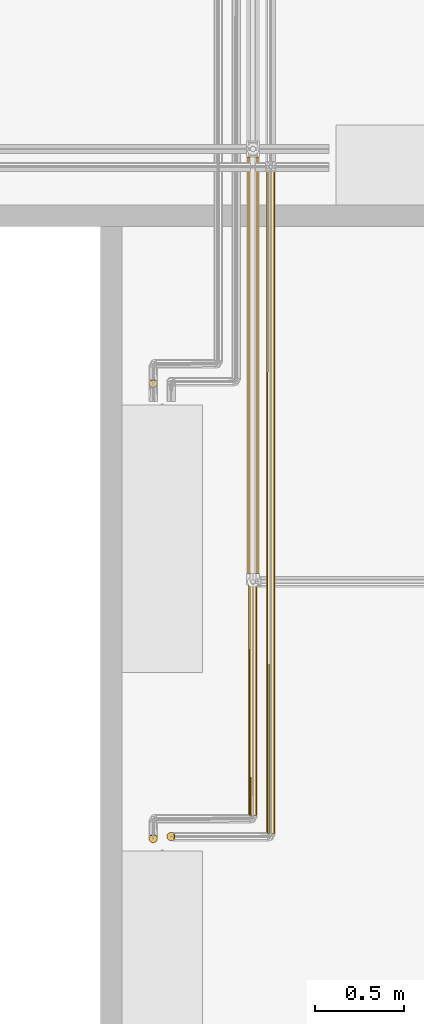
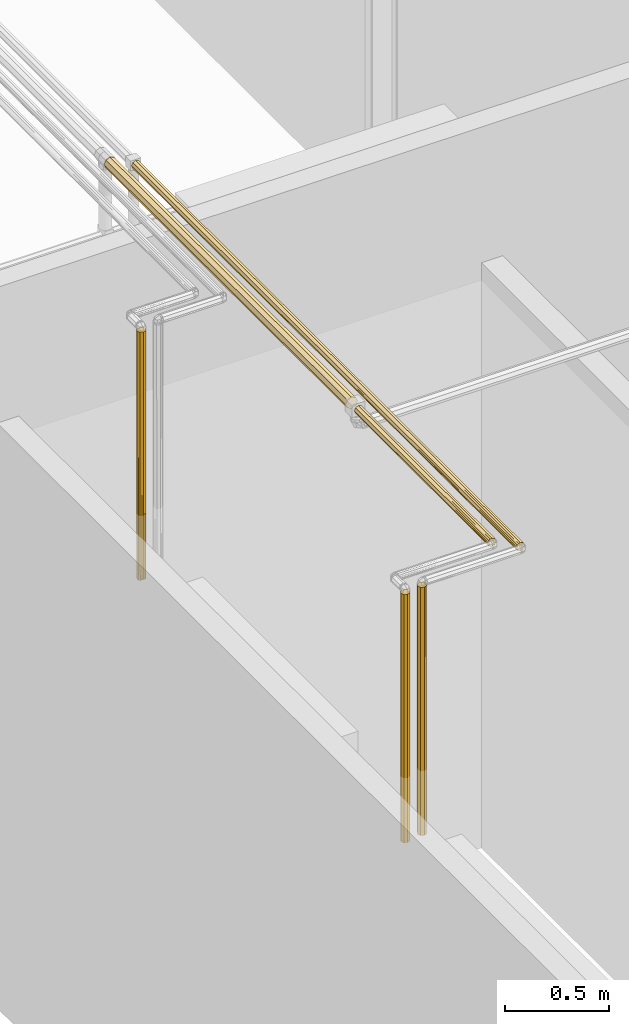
# One storey, part 79 of 652: 6 coverings.
"""IFC2X3 building model written with IfcOpenShell, lengths in millimetres."""

from ifc_helpers import new_model, entity, si_unit, converted_unit, direction, frame, origin, place, context, subcontext, project, spatial, faceted_brep, material, type_object, element, save


model = new_model("IFC2X3")

# Units and contexts
model_context = context("Model", 3, precision=0.01, world=frame((0.0, 0.0, 308426.39999999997)), true_north=direction((6.123233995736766e-17, 1.0)))
plan_context = context("Plan", 3, precision=0.01, world=frame((0.0, 0.0, 308426.39999999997)), true_north=direction((6.123233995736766e-17, 1.0)))
body_context = subcontext(model_context, "Body", "Model", "MODEL_VIEW")
ifc_project = project(units=[si_unit("LENGTHUNIT", "METRE", prefix="MILLI"), si_unit("AREAUNIT", "SQUARE_METRE"), si_unit("VOLUMEUNIT", "CUBIC_METRE"), converted_unit("PLANEANGLEUNIT", "DEGREE", entity("IfcPlaneAngleMeasure", 0.017453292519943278), si_unit("PLANEANGLEUNIT", "RADIAN"), dimensions=[0, 0, 0, 0, 0, 0, 0])], contexts=[model_context, plan_context])

# Site, building, storey
site_placement = place(None, origin())
site = spatial("IfcSite", under=ifc_project, at=site_placement, Name="Default", CompositionType="ELEMENT")
building_placement = place(site_placement, origin())
building = spatial("IfcBuilding", under=site, at=building_placement, CompositionType="ELEMENT")
storey_placement = place(building_placement, frame((0.0, 0.0, 1730.6999999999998)))
storey = spatial("IfcBuildingStorey", under=building, at=storey_placement, Name="EG_Produktion_FFB", CompositionType="ELEMENT", Elevation=1730.6999999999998)

# Coverings
ifc_material = material(Name="Dämmung - Armaflex-Schlauch")
covering_type = type_object("IfcCoveringType", Name="Rohrdämmung außen:Armaflex-Schlauch", PredefinedType="INSULATION")
covering_1_placement = place(storey_placement, frame((15258.835930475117, 36497.94481053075, 4174.642227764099)))
element("IfcCovering", 1, at=covering_1_placement, inside=storey, type_object=covering_type, material=ifc_material, Name="Rohrdämmung außen:Armaflex-Schlauch", ObjectType="Rohrdämmung außen:Armaflex-Schlauch", PredefinedType="INSULATION", context=body_context, shape_type="Brep", body=[
    faceted_brep([(8.555147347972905, 3717.405939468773, 8.55514734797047), (6.8151785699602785, 3717.405939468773, 12.755803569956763), (5.075209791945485, 3717.405939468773, 16.956459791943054), (3.3352410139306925, 3717.405939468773, 21.157116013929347), (1.5952722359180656, 3717.405939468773, 25.35777223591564), (3.3352410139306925, 3717.405939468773, 29.558428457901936), (5.075209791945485, 3717.405939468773, 33.759084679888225), (6.815178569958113, 3717.405939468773, 37.95974090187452), (8.555147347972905, 3717.405939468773, 42.16039712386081), (12.755803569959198, 3717.405939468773, 43.90036590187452), (16.95645979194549, 3717.405939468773, 45.640334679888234), (19.88453136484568, 3717.405939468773, 46.85318163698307), (25.357772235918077, 3717.405939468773, 49.12027223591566), (30.831013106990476, 3717.405939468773, 46.85318163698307), (33.75908467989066, 3717.405939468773, 45.640334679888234), (37.959740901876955, 3717.405939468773, 43.90036590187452), (42.16039712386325, 3717.405939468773, 42.16039712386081), (43.90036590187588, 3717.405939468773, 37.95974090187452), (45.64033467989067, 3717.405939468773, 33.759084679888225), (46.853181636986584, 3717.405939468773, 30.83101310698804), (49.12027223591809, 3717.405939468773, 25.35777223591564), (47.380303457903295, 3717.405939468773, 21.157116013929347), (45.64033467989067, 3717.405939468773, 16.956459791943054), (43.90036590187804, 3717.405939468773, 12.755803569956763), (42.16039712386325, 3717.405939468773, 8.55514734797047), (37.959740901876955, 3717.405939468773, 6.8151785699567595), (33.75908467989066, 3717.405939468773, 5.075209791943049), (29.55842845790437, 3717.405939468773, 3.335241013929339), (25.357772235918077, 3717.405939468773, 1.595272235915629), (21.157116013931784, 3717.405939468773, 3.335241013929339), (16.95645979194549, 3717.405939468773, 5.075209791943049), (12.755803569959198, 3717.405939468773, 6.815178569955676), (15.488689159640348, 1.5952722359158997, 46.97391447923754), (11.448105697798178, 1.5952722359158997, 43.951164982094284), (7.407522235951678, 1.5952722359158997, 40.928415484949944), (7.407522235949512, 1.5952722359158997, 9.787128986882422), (11.448105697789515, 1.5952722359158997, 6.764379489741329), (15.48868915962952, 1.5952722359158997, 3.7416299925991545), (20.42323069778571, 1.5952722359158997, 2.6684511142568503), (25.357772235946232, 1.5952722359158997, 1.5952722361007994), (30.831013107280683, 1.5952722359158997, 3.8623628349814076), (36.30425397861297, 1.5952722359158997, 6.129453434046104), (42.16039712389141, 1.5952722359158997, 8.55514734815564), (43.90036590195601, 1.5952722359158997, 12.755803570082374), (45.64033467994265, 1.5952722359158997, 16.95645979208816), (47.380303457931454, 1.5952722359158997, 21.157116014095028), (49.120272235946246, 1.5952722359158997, 25.35777223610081), (47.380303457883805, 1.5952722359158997, 29.558428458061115), (45.640334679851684, 1.5952722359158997, 33.75908468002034), (43.90036590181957, 1.5952722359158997, 37.95974090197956), (42.16039712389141, 1.5952722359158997, 42.160397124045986), (37.95974090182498, 1.5952722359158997, 43.90036590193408), (33.75908467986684, 1.5952722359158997, 45.640334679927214), (29.55842845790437, 1.5952722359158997, 47.380303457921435), (25.357772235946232, 1.5952722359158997, 49.120272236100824), (20.423230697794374, 1.5952722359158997, 48.04709335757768), (5.251613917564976, 3.751180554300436, 13.417429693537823), (3.0957055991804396, 5.907088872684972, 17.047730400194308), (2.3454889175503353, 6.657305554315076, 21.20275131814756), (1.5952722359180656, 7.40752223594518, 25.35777223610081), (2.345488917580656, 6.6573055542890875, 29.512793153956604), (3.0957055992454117, 5.907088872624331, 33.667814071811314), (5.251613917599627, 3.7511805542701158, 37.29811477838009)], [[[0, 1, 2, 3, 4, 5, 6, 7, 8, 9, 10, 11, 12, 13, 14, 15, 16, 17, 18, 19, 20, 21, 22, 23, 24, 25, 26, 27, 28, 29, 30, 31]], [[32, 33, 34, 35, 36, 37, 38, 39, 40, 41, 42, 43, 44, 45, 46, 47, 48, 49, 50, 51, 52, 53, 54, 55]], [[44, 43, 42, 24, 23, 22, 21, 20, 46, 45]], [[42, 41, 40, 39, 28, 27, 26, 25, 24]], [[39, 29, 28]], [[1, 35, 56]], [[0, 36, 35]], [[38, 30, 29]], [[31, 37, 36]], [[0, 35, 1]], [[56, 57, 2]], [[58, 59, 4]], [[38, 37, 30]], [[56, 2, 1]], [[36, 0, 31]], [[3, 57, 58]], [[31, 30, 37]], [[29, 39, 38]], [[2, 57, 3]], [[58, 4, 3]], [[59, 60, 4]], [[54, 12, 55]], [[5, 60, 61]], [[32, 9, 33]], [[62, 6, 61]], [[8, 34, 33]], [[10, 9, 32, 11]], [[11, 32, 55]], [[4, 60, 5]], [[33, 9, 8]], [[12, 11, 55]], [[6, 62, 7]], [[34, 7, 62]], [[5, 61, 6]], [[7, 34, 8]], [[20, 19, 18, 17, 16, 50, 49, 48, 47, 46]], [[52, 51, 50, 16, 15, 14, 13, 12, 54, 53]], [[58, 57, 56, 35, 34, 62, 61, 60, 59]]]),
])
covering_2_placement = place(storey_placement, frame((15149.310930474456, 37955.747750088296, 4165.117227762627)))
element("IfcCovering", 2, at=covering_2_placement, inside=storey, type_object=covering_type, material=ifc_material, Name="Rohrdämmung außen:Armaflex-Schlauch", ObjectType="Rohrdämmung außen:Armaflex-Schlauch", PredefinedType="INSULATION", context=body_context, shape_type="Brep", body=[
    faceted_brep([(17.229409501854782, 0.0, 8.907534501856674), (23.113863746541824, 0.0, 6.4701137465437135), (28.998317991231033, 0.0, 4.032692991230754), (34.882772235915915, 0.0, 1.595272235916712), (42.10785912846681, 0.0, 4.588001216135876), (46.65168072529, 0.0, 6.4701137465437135), (52.53613496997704, 0.0, 8.90753450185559), (58.42058921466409, 0.0, 11.344955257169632), (60.85800996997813, 0.0, 17.229409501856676), (63.295430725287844, 0.0, 23.113863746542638), (65.73285148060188, 0.0, 28.99831799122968), (68.17027223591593, 0.0, 34.882772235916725), (65.17754325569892, 0.0, 42.10785912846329), (63.295430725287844, 0.0, 46.65168072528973), (60.85800996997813, 0.0, 52.53613496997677), (58.42058921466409, 0.0, 58.42058921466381), (52.53613496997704, 0.0, 60.85800996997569), (46.65168072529, 0.0, 63.295430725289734), (40.76722648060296, 0.0, 65.73285148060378), (34.882772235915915, 0.0, 68.17027223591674), (27.657685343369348, 0.0, 65.17754325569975), (23.113863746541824, 0.0, 63.295430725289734), (17.229409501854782, 0.0, 60.85800996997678), (11.344955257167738, 0.0, 58.42058921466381), (8.907534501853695, 0.0, 52.53613496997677), (6.470113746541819, 0.0, 46.65168072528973), (4.0326929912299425, 0.0, 40.76722648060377), (1.5952722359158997, 0.0, 34.882772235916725), (4.0326929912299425, 0.0, 28.998317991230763), (6.470113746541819, 0.0, 23.11386374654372), (8.907534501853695, 0.0, 17.229409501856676), (11.344955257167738, 0.0, 11.344955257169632), (1.5952722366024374, 2333.5044999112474, 34.882772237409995), (4.032692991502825, 2333.5044999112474, 40.76722648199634), (6.470113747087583, 2333.504499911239, 46.65168072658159), (8.907534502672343, 2333.504499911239, 52.536134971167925), (11.344955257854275, 2333.50449991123, 58.42058921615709), (20.432598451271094, 2333.50449991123, 62.18481427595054), (27.657685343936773, 2333.504499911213, 65.17754325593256), (34.88277223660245, 2333.504499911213, 68.17027223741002), (40.767226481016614, 2333.504499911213, 65.73285148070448), (46.65168072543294, 2333.504499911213, 63.29543072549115), (52.53613496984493, 2333.504499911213, 60.85800997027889), (58.420589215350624, 2333.5044999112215, 58.42058921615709), (60.858009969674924, 2333.5044999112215, 52.53613497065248), (63.29543072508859, 2333.50449991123, 46.65168072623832), (65.73285148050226, 2333.50449991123, 40.76722648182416), (68.17027223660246, 2333.50449991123, 34.882772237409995), (65.1775432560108, 2333.504499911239, 27.657685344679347), (62.18481427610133, 2333.504499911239, 20.4325984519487), (58.420589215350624, 2333.5044999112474, 11.344955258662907), (52.53613497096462, 2333.5044999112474, 8.907534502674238), (46.65168072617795, 2333.504499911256, 6.470113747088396), (40.767226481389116, 2333.5044999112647, 4.032692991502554), (34.88277223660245, 2333.5044999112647, 1.5952722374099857), (27.65768534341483, 2333.5044999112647, 4.588001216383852), (20.432598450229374, 2333.504499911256, 7.580730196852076), (11.344955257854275, 2333.504499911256, 11.344955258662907), (8.907534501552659, 2333.5044999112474, 17.229409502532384), (6.470113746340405, 2333.5044999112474, 23.11386374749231), (4.032692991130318, 2333.5044999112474, 28.998317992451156)], [[[0, 1, 2, 3, 4, 5, 6, 7, 8, 9, 10, 11, 12, 13, 14, 15, 16, 17, 18, 19, 20, 21, 22, 23, 24, 25, 26, 27, 28, 29, 30, 31]], [[32, 33, 34, 35, 36, 37, 38, 39, 40, 41, 42, 43, 44, 45, 46, 47, 48, 49, 50, 51, 52, 53, 54, 55, 56, 57, 58, 59, 60]], [[59, 58, 57, 31, 30, 29, 28, 27, 32, 60]], [[57, 56, 55, 54, 3, 2, 1, 0, 31]], [[47, 11, 10, 9, 8, 7, 50, 49, 48]], [[6, 52, 51]], [[53, 52, 4]], [[7, 51, 50]], [[4, 52, 6, 5]], [[3, 53, 4]], [[7, 6, 51]], [[53, 3, 54]], [[42, 41, 40, 39, 19, 18, 17, 16, 15, 43]], [[14, 13, 12, 11, 47, 46, 45, 44, 43, 15]], [[38, 19, 39]], [[23, 36, 35, 34, 33, 32, 27, 26, 25, 24]], [[19, 38, 21, 20]], [[22, 36, 23]], [[22, 21, 37]], [[36, 22, 37]], [[37, 21, 38]]]),
])
covering_3_placement = place(storey_placement, frame((15158.835930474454, 36597.94481053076, 4174.6422277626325)))
element("IfcCovering", 3, at=covering_3_placement, inside=storey, type_object=covering_type, material=ifc_material, Name="Rohrdämmung außen:Armaflex-Schlauch", ObjectType="Rohrdämmung außen:Armaflex-Schlauch", PredefinedType="INSULATION", context=body_context, shape_type="Brep", body=[
    faceted_brep([(20.423230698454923, 1.5952722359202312, 2.6684511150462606), (25.35777223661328, 1.5952722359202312, 1.5952722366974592), (29.296678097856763, 1.5952722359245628, 3.226820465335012), (33.759084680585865, 1.5952722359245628, 5.07520979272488), (37.95974090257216, 1.5952722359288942, 6.815178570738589), (42.16039712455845, 1.5952722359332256, 8.5551473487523), (43.900365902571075, 1.5952722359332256, 12.755803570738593), (45.64033468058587, 1.5952722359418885, 16.956459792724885), (47.48872400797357, 1.5952722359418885, 21.41886637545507), (49.12027223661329, 1.5952722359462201, 25.35777223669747), (47.380303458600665, 1.5952722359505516, 29.558428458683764), (45.64033468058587, 1.5952722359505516, 33.75908468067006), (43.900365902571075, 1.5952722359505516, 37.95974090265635), (42.16039712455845, 1.5952722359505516, 42.16039712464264), (37.95974090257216, 1.5952722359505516, 43.900365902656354), (33.759084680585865, 1.5952722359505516, 45.640334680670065), (29.558428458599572, 1.5952722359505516, 47.38030345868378), (25.35777223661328, 1.5952722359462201, 49.12027223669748), (20.42323069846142, 1.5952722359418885, 48.04709335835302), (15.48868916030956, 1.5952722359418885, 46.97391448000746), (11.448105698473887, 1.595272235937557, 43.951164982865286), (7.407522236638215, 1.5952722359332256, 40.92841548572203), (7.407522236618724, 1.5952722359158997, 9.787128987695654), (11.448105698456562, 1.5952722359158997, 6.764379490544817), (15.488689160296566, 1.5952722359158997, 3.741629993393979), (42.16039712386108, 1292.4059395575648, 8.55514734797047), (37.95974090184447, 1292.4059395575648, 6.815178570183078), (33.759084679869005, 1292.4059395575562, 5.0752097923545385), (29.558428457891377, 1292.4059395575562, 3.335241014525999), (25.357772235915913, 1292.4059395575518, 1.595272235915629), (21.41886637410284, 1292.4059395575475, 3.2268204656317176), (16.956459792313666, 1292.4059395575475, 5.075209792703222), (12.75580357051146, 1292.4059395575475, 6.815178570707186), (8.55514734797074, 1292.4059395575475, 8.55514734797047), (6.8151785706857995, 1292.4059395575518, 12.75580357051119), (5.075209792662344, 1292.4059395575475, 16.956459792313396), (3.335241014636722, 1292.4059395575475, 21.157116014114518), (1.5952722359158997, 1292.4059395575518, 25.35777223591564), (3.335241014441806, 1292.4059395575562, 29.558428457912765), (5.075209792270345, 1292.4059395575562, 33.75908467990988), (6.815178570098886, 1292.4059395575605, 37.959740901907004), (8.55514734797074, 1292.4059395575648, 42.16039712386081), (12.755803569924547, 1292.4059395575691, 43.900365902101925), (16.95645979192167, 1292.4059395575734, 45.64033468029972), (21.15711601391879, 1292.4059395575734, 47.3803034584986), (25.357772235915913, 1292.4059395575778, 49.12027223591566), (29.296678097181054, 1292.4059395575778, 47.48872400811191), (33.23558395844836, 1292.405939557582, 45.85717577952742), (37.697990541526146, 1292.405939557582, 44.008786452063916), (42.16039712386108, 1292.405939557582, 42.16039712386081), (43.90036590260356, 1292.405939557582, 37.95974090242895), (45.64033468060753, 1292.405939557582, 33.75908468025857), (47.38030345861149, 1292.405939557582, 29.558428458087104), (49.12027223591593, 1292.4059395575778, 25.35777223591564), (47.38030345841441, 1292.4059395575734, 21.157116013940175), (45.6403346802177, 1292.4059395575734, 16.95645979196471), (43.90036590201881, 1292.4059395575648, 12.755803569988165), (2.3454889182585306, 6.6573055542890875, 21.20275131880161), (1.5952722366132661, 7.407522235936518, 25.357772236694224), (3.095705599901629, 5.907088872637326, 17.047730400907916), (5.251613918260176, 3.751180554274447, 13.417429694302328), (2.3454889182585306, 6.6573055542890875, 29.51279315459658), (5.251613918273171, 3.751180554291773, 37.29811477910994), (3.0957055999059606, 5.90708887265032, 33.667814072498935)], [[[0, 1, 2, 3, 4, 5, 6, 7, 8, 9, 10, 11, 12, 13, 14, 15, 16, 17, 18, 19, 20, 21, 22, 23, 24]], [[25, 26, 27, 28, 29, 30, 31, 32, 33, 34, 35, 36, 37, 38, 39, 40, 41, 42, 43, 44, 45, 46, 47, 48, 49, 50, 51, 52, 53, 54, 55, 56]], [[33, 23, 22]], [[37, 57, 58]], [[57, 37, 36]], [[59, 35, 60]], [[0, 31, 30]], [[23, 33, 32]], [[31, 0, 24]], [[22, 60, 34]], [[36, 59, 57]], [[30, 1, 0]], [[35, 59, 36]], [[32, 24, 23]], [[22, 34, 33]], [[32, 31, 24]], [[30, 29, 1]], [[60, 35, 34]], [[2, 1, 29]], [[27, 4, 3]], [[5, 4, 26]], [[28, 3, 2]], [[5, 25, 56, 55, 54, 53, 9, 8, 7, 6]], [[4, 27, 26]], [[28, 27, 3]], [[5, 26, 25]], [[2, 29, 28]], [[50, 49, 13, 12, 11, 10, 9, 53, 52, 51]], [[47, 46, 45, 17, 16, 15, 14, 13, 49, 48]], [[20, 42, 41]], [[45, 44, 17]], [[43, 19, 18]], [[43, 42, 19]], [[37, 61, 38]], [[21, 40, 62]], [[63, 39, 38]], [[18, 44, 43]], [[39, 63, 62]], [[19, 42, 20]], [[61, 63, 38]], [[17, 44, 18]], [[41, 21, 20]], [[58, 61, 37]], [[40, 21, 41]], [[40, 39, 62]], [[59, 60, 22, 21, 62, 63, 61, 58, 57]]]),
])
covering_4_placement = place(storey_placement, frame((14599.642227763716, 38994.642227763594, 4183.645022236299)))
element("IfcCovering", 4, at=covering_4_placement, inside=storey, type_object=covering_type, material=ifc_material, Name="Rohrdämmung außen:Armaflex-Schlauch", ObjectType="Rohrdämmung außen:Armaflex-Schlauch", PredefinedType="INSULATION", context=body_context, shape_type="Brep", body=[
    faceted_brep([(25.357772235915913, 49.12027223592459, -1465.6947722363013), (29.558428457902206, 47.380303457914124, -1465.6947722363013), (33.759084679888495, 45.640334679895, -1465.6947722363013), (37.959740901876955, 43.90036590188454, -1465.6947722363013), (42.16039712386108, 42.16039712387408, -1465.6947722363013), (43.90036590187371, 37.95974090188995, -1465.6947722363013), (45.640334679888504, 33.759084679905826, -1465.6947722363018), (47.68183184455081, 28.830474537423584, -1465.6947722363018), (49.12027223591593, 25.357772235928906, -1465.6947722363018), (48.04709335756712, 20.42323069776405, -1465.6947722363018), (46.97391447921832, 15.488689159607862, -1465.6947722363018), (43.951164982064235, 11.448105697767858, -1465.6947722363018), (40.92841548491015, 7.407522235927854, -1465.6947722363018), (9.787128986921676, 7.407522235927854, -1465.6947722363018), (6.764379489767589, 11.448105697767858, -1465.6947722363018), (3.7416299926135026, 15.488689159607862, -1465.6947722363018), (2.6684511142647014, 20.42323069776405, -1465.6947722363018), (1.5952722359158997, 25.357772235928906, -1465.6947722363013), (3.335241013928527, 29.558428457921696, -1465.6947722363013), (5.07520979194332, 33.759084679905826, -1465.6947722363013), (6.815178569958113, 37.95974090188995, -1465.6947722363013), (8.55514734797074, 42.16039712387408, -1465.6947722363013), (12.755803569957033, 43.90036590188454, -1465.6947722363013), (16.956459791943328, 45.640334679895, -1465.6947722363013), (21.15711601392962, 47.380303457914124, -1465.6947722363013), (9.787128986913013, 43.30802223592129, -1.5952722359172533), (6.764379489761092, 39.26743877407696, -1.5952722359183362), (3.7416299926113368, 35.22685531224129, -1.5952722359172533), (2.6684511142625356, 30.292313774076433, -1.5952722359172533), (1.5952722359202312, 25.357772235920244, -1.5952722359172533), (3.033712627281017, 21.885069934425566, -1.5952722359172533), (5.0752097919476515, 16.95645979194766, -1.5952722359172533), (6.8151785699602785, 12.755803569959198, -1.5952722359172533), (8.55514734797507, 8.55514734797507, -1.5952722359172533), (12.75580356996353, 6.81517856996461, -1.5952722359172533), (16.956459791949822, 5.075209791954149, -1.5952722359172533), (21.15711601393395, 3.335241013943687, -1.5952722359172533), (25.357772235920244, 1.5952722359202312, -1.5952722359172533), (29.55842845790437, 3.335241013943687, -1.5952722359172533), (33.75908467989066, 5.075209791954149, -1.5952722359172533), (37.95974090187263, 6.81517856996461, -1.5952722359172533), (42.160397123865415, 8.55514734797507, -1.5952722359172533), (43.90036590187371, 12.75580356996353, -1.5952722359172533), (45.640334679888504, 16.95645979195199, -1.5952722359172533), (47.38030345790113, 21.157116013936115, -1.5952722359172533), (49.120272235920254, 25.357772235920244, -1.5952722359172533), (48.04709335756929, 30.2923137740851, -1.5952722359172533), (46.97391447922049, 35.22685531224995, -1.5952722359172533), (43.95116498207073, 39.267438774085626, -1.5952722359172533), (40.928415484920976, 43.30802223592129, -1.5952722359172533), (17.04773040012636, 47.61983887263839, -5.907088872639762), (13.417429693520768, 45.46393055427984, -3.751180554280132), (21.202751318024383, 48.37005555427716, -6.657305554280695), (25.357772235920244, 49.12027223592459, -7.407522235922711), (29.512793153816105, 48.37005555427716, -6.6573055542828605), (33.6678140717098, 47.61983887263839, -5.907088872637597), (37.29811477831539, 45.46393055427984, -3.7511805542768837), (29.512793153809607, 2.3454889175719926, -1460.632738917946), (37.298114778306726, 5.2516139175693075, -1463.5388639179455), (33.66781407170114, 3.0957055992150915, -1461.382955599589), (25.357772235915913, 1.5952722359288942, -1459.8825222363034), (21.202751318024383, 2.3454889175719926, -1460.632738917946), (17.047730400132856, 3.0957055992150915, -1461.382955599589), (13.417429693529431, 5.251613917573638, -1463.5388639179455)], [[[0, 1, 2, 3, 4, 5, 6, 7, 8, 9, 10, 11, 12, 13, 14, 15, 16, 17, 18, 19, 20, 21, 22, 23, 24]], [[25, 26, 27, 28, 29, 30, 31, 32, 33, 34, 35, 36, 37, 38, 39, 40, 41, 42, 43, 44, 45, 46, 47, 48, 49]], [[29, 18, 17]], [[23, 50, 24]], [[18, 29, 28]], [[28, 19, 18]], [[25, 21, 26]], [[22, 25, 51]], [[51, 50, 23]], [[52, 53, 0]], [[27, 26, 20]], [[26, 21, 20]], [[27, 20, 19]], [[24, 50, 52]], [[21, 25, 22]], [[28, 27, 19]], [[51, 23, 22]], [[52, 0, 24]], [[53, 54, 0]], [[46, 45, 7]], [[1, 54, 55]], [[47, 5, 48]], [[56, 2, 55]], [[4, 49, 48]], [[47, 46, 6]], [[6, 46, 7]], [[0, 54, 1]], [[48, 5, 4]], [[45, 8, 7]], [[47, 6, 5]], [[2, 56, 3]], [[49, 3, 56]], [[1, 55, 2]], [[3, 49, 4]], [[11, 42, 41]], [[45, 44, 8]], [[43, 10, 9]], [[43, 42, 10]], [[37, 57, 38]], [[12, 40, 58]], [[59, 39, 38]], [[9, 44, 43]], [[39, 59, 58]], [[10, 42, 11]], [[57, 59, 38]], [[8, 44, 9]], [[41, 12, 11]], [[60, 57, 37]], [[40, 12, 41]], [[40, 39, 58]], [[37, 61, 60]], [[16, 31, 30]], [[61, 37, 36]], [[62, 35, 63]], [[14, 33, 32]], [[33, 14, 13]], [[31, 16, 15]], [[13, 34, 33]], [[35, 62, 36]], [[30, 17, 16]], [[13, 63, 34]], [[32, 15, 14]], [[32, 31, 15]], [[36, 62, 61]], [[30, 29, 17]], [[63, 35, 34]], [[12, 58, 59, 57, 60, 61, 62, 63, 13]], [[49, 56, 55, 54, 53, 52, 50, 51, 25]]]),
])
covering_5_placement = place(storey_placement, frame((14599.642227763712, 36444.642227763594, 4183.645022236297)))
element("IfcCovering", 5, at=covering_5_placement, inside=storey, type_object=covering_type, material=ifc_material, Name="Rohrdämmung außen:Armaflex-Schlauch", ObjectType="Rohrdämmung außen:Armaflex-Schlauch", PredefinedType="INSULATION", context=body_context, shape_type="Brep", body=[
    faceted_brep([(8.55514734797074, 42.16039712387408, -1465.694772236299), (12.755803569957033, 43.90036590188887, -1465.694772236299), (16.956459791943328, 45.64033467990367, -1465.694772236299), (21.15711601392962, 47.380303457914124, -1465.694772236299), (25.357772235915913, 49.120272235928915, -1465.694772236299), (29.558428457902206, 47.380303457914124, -1465.694772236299), (33.759084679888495, 45.64033467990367, -1465.694772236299), (37.95974090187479, 43.90036590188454, -1465.694772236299), (42.16039712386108, 42.16039712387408, -1465.694772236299), (43.90036590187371, 37.95974090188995, -1465.6947722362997), (45.640334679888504, 33.75908467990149, -1465.6947722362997), (47.681831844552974, 28.830474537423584, -1465.6947722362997), (49.12027223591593, 25.357772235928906, -1465.6947722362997), (47.681831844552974, 21.885069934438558, -1465.6947722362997), (45.640334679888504, 16.95645979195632, -1465.6947722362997), (43.90036590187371, 12.755803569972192, -1465.6947722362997), (42.16039712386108, 8.555147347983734, -1465.6947722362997), (37.95974090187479, 6.815178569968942, -1465.6947722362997), (33.75908467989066, 5.075209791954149, -1465.6947722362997), (29.558428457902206, 3.335241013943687, -1465.6947722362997), (25.357772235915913, 1.5952722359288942, -1465.6947722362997), (21.8850699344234, 3.033712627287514, -1465.6947722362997), (16.956459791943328, 5.075209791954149, -1465.6947722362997), (12.755803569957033, 6.8151785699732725, -1465.6947722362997), (8.55514734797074, 8.555147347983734, -1465.6947722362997), (6.815178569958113, 12.755803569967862, -1465.6947722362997), (5.07520979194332, 16.95645979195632, -1465.6947722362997), (3.335241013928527, 21.15711601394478, -1465.6947722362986), (1.5952722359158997, 25.357772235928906, -1465.694772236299), (3.3352410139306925, 29.558428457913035, -1465.694772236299), (5.07520979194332, 33.75908467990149, -1465.694772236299), (6.815178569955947, 37.95974090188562, -1465.694772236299), (9.787128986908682, 43.30802223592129, -1.5952722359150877), (6.764379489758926, 39.26743877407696, -1.5952722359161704), (3.7416299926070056, 35.22685531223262, -1.5952722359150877), (2.6684511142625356, 30.292313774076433, -1.5952722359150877), (1.5952722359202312, 25.357772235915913, -1.5952722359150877), (4.472153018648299, 18.412367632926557, -1.5952722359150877), (6.513650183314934, 13.483757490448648, -1.5952722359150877), (8.55514734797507, 8.55514734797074, -1.5952722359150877), (12.755803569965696, 6.8151785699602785, -1.5952722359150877), (16.956459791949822, 5.075209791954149, -1.5952722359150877), (21.157116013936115, 3.335241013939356, -1.5952722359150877), (25.357772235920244, 1.5952722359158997, -1.5952722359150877), (32.30317683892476, 4.472153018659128, -1.5952722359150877), (37.231786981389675, 6.513650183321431, -1.5952722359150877), (42.160397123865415, 8.55514734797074, -1.5952722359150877), (43.900365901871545, 12.75580356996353, -1.5952722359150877), (45.64033467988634, 16.95645979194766, -1.5952722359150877), (47.38030345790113, 21.157116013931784, -1.5952722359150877), (49.120272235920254, 25.357772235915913, -1.5952722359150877), (48.04709335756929, 30.292313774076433, -1.5952722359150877), (46.97391447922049, 35.22685531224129, -1.5952722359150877), (43.95116498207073, 39.26743877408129, -1.5952722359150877), (40.928415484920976, 43.30802223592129, -1.5952722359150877), (17.04773040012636, 47.619838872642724, -5.907088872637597), (13.417429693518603, 45.46393055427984, -3.7511805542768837), (21.202751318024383, 48.37005555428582, -6.657305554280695), (25.357772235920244, 49.120272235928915, -7.407522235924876), (29.512793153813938, 48.37005555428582, -6.657305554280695), (33.66781407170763, 47.61983887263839, -5.9070888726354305), (37.29811477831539, 45.46393055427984, -3.751180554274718)], [[[0, 1, 2, 3, 4, 5, 6, 7, 8, 9, 10, 11, 12, 13, 14, 15, 16, 17, 18, 19, 20, 21, 22, 23, 24, 25, 26, 27, 28, 29, 30, 31]], [[32, 33, 34, 35, 36, 37, 38, 39, 40, 41, 42, 43, 44, 45, 46, 47, 48, 49, 50, 51, 52, 53, 54]], [[36, 29, 28]], [[2, 55, 3]], [[29, 36, 35]], [[35, 30, 29]], [[32, 0, 33]], [[1, 32, 56]], [[56, 55, 2]], [[57, 58, 4]], [[34, 33, 31]], [[33, 0, 31]], [[34, 31, 30]], [[3, 55, 57]], [[0, 32, 1]], [[35, 34, 30]], [[56, 2, 1]], [[57, 4, 3]], [[58, 59, 4]], [[51, 50, 11]], [[5, 59, 60]], [[52, 9, 53]], [[61, 6, 60]], [[8, 54, 53]], [[52, 51, 10]], [[10, 51, 11]], [[4, 59, 5]], [[53, 9, 8]], [[50, 12, 11]], [[52, 10, 9]], [[6, 61, 7]], [[54, 7, 61]], [[5, 60, 6]], [[7, 54, 8]], [[48, 47, 46, 16, 15, 14, 13, 12, 50, 49]], [[16, 46, 45, 44, 43, 20, 19, 18, 17]], [[41, 40, 39, 24, 23, 22, 21, 20, 43, 42]], [[24, 39, 38, 37, 36, 28, 27, 26, 25]], [[60, 59, 58, 57, 55, 56, 32, 54, 61]]]),
])
covering_6_placement = place(storey_placement, frame((14699.642227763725, 36456.23206053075, 4183.645022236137)))
element("IfcCovering", 6, at=covering_6_placement, inside=storey, type_object=covering_type, material=ifc_material, Name="Rohrdämmung außen:Armaflex-Schlauch", ObjectType="Rohrdämmung außen:Armaflex-Schlauch", PredefinedType="INSULATION", context=body_context, shape_type="Brep", body=[
    faceted_brep([(42.16039712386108, 8.555147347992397, -1465.69477223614), (37.959740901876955, 6.815178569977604, -1465.6947722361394), (33.759084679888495, 5.075209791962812, -1465.69477223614), (28.83047453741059, 3.0337126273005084, -1465.6947722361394), (25.357772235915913, 1.595272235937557, -1465.69477223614), (21.885069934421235, 3.0337126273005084, -1465.69477223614), (16.956459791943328, 5.075209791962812, -1465.69477223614), (12.755803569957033, 6.815178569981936, -1465.69477223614), (8.55514734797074, 8.555147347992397, -1465.69477223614), (6.815178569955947, 12.755803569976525, -1465.69477223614), (5.07520979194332, 16.956459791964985, -1465.6947722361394), (3.3352410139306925, 21.15711601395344, -1465.69477223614), (1.5952722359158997, 25.35777223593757, -1465.6947722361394), (3.033712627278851, 28.83047453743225, -1465.6947722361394), (5.07520979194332, 33.75908467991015, -1465.6947722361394), (6.815178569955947, 37.959740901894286, -1465.6947722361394), (8.55514734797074, 42.16039712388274, -1465.6947722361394), (12.755803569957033, 43.90036590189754, -1465.6947722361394), (16.956459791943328, 45.640334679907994, -1465.6947722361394), (21.157116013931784, 47.380303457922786, -1465.6947722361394), (25.357772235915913, 49.120272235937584, -1465.6947722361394), (29.558428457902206, 47.380303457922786, -1465.6947722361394), (33.759084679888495, 45.64033467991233, -1465.6947722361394), (37.95974090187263, 43.9003659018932, -1465.69477223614), (42.16039712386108, 42.16039712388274, -1465.6947722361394), (43.90036590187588, 37.959740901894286, -1465.6947722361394), (45.640334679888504, 33.75908467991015, -1465.6947722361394), (47.38030345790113, 29.558428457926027, -1465.6947722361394), (49.12027223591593, 25.35777223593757, -1465.6947722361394), (47.38030345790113, 21.15711601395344, -1465.6947722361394), (45.640334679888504, 16.956459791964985, -1465.6947722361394), (43.90036590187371, 12.755803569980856, -1465.6947722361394), (35.226855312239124, 3.74162999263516, -1.5952722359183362), (39.267438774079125, 6.764379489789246, -1.5952722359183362), (43.30802223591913, 9.787128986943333, -1.5952722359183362), (43.30802223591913, 40.92841548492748, -1.5952722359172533), (39.26743877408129, 43.95116498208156, -1.5952722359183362), (35.22685531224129, 46.973914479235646, -1.5952722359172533), (30.292313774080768, 48.04709335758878, -1.5952722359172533), (25.357772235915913, 49.12027223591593, -1.5952722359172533), (18.412367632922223, 46.243391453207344, -1.5952722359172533), (13.48375749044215, 44.20189428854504, -1.5952722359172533), (8.55514734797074, 42.16039712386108, -1.5952722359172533), (6.815178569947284, 37.95974090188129, -1.5952722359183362), (5.075209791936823, 33.759084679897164, -1.5952722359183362), (3.3352410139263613, 29.55842845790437, -1.5952722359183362), (1.5952722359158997, 25.357772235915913, -1.5952722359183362), (4.472153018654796, 18.41236763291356, -1.5952722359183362), (6.513650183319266, 13.483757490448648, -1.5952722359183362), (8.55514734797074, 8.55514734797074, -1.5952722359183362), (12.75580356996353, 6.815178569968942, -1.5952722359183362), (16.95645979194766, 5.07520979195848, -1.5952722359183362), (21.157116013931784, 3.33524101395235, -1.5952722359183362), (25.357772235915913, 1.5952722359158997, -1.5952722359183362), (30.292313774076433, 2.6684511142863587, -1.5952722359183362), (47.61983887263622, 33.66781407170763, -5.907088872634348), (45.46393055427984, 37.298114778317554, -3.7511805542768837), (48.37005555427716, 29.512793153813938, -6.657305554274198), (49.12027223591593, 25.357772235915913, -7.407522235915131), (48.37005555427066, 21.20275131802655, -6.6573055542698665), (47.619838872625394, 17.047730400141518, -5.9070888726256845), (45.46393055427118, 13.417429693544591, -3.751180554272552)], [[[0, 1, 2, 3, 4, 5, 6, 7, 8, 9, 10, 11, 12, 13, 14, 15, 16, 17, 18, 19, 20, 21, 22, 23, 24, 25, 26, 27, 28, 29, 30, 31]], [[32, 33, 34, 35, 36, 37, 38, 39, 40, 41, 42, 43, 44, 45, 46, 47, 48, 49, 50, 51, 52, 53, 54]], [[39, 21, 20]], [[26, 55, 27]], [[21, 39, 38]], [[38, 22, 21]], [[35, 24, 36]], [[25, 35, 56]], [[56, 55, 26]], [[57, 58, 28]], [[37, 36, 23]], [[36, 24, 23]], [[37, 23, 22]], [[27, 55, 57]], [[24, 35, 25]], [[38, 37, 22]], [[56, 26, 25]], [[57, 28, 27]], [[58, 59, 28]], [[54, 53, 3]], [[29, 59, 60]], [[32, 1, 33]], [[61, 30, 60]], [[0, 34, 33]], [[32, 54, 2]], [[2, 54, 3]], [[28, 59, 29]], [[33, 1, 0]], [[53, 4, 3]], [[32, 2, 1]], [[30, 61, 31]], [[34, 31, 61]], [[29, 60, 30]], [[31, 34, 0]], [[51, 50, 49, 8, 7, 6, 5, 4, 53, 52]], [[8, 49, 48, 47, 46, 12, 11, 10, 9]], [[44, 43, 42, 16, 15, 14, 13, 12, 46, 45]], [[16, 42, 41, 40, 39, 20, 19, 18, 17]], [[34, 61, 60, 59, 58, 57, 55, 56, 35]]]),
])

save(model, "model.ifc")
